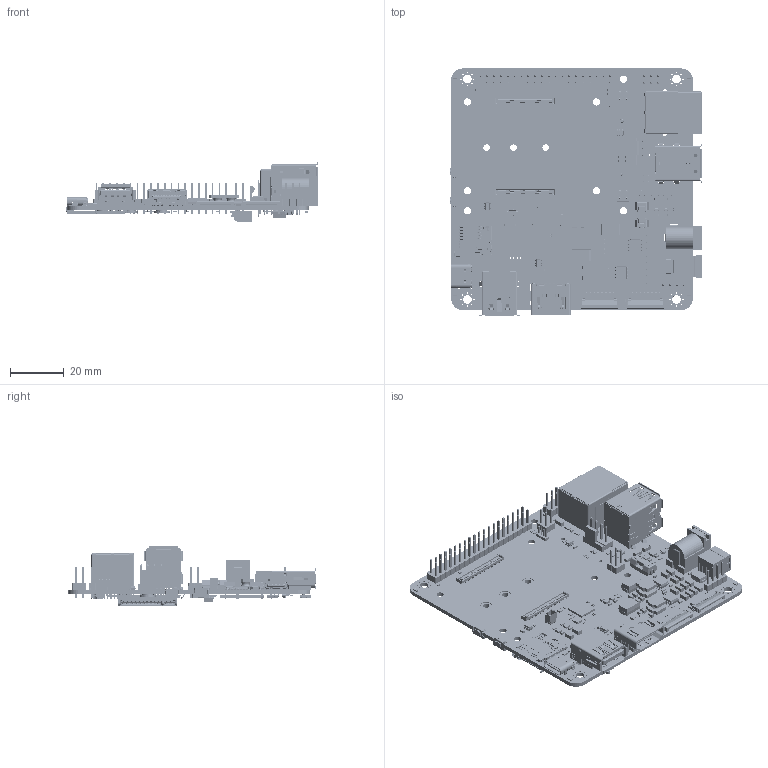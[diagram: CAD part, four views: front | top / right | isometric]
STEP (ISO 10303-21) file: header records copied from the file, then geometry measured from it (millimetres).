
FILE_DESCRIPTION(('KiCad electronic assembly'),'2;1');
FILE_NAME('TOFU5lite_V1.2.step','2025-12-12T10:07:45',('Pcbnew'),( 'Kicad'),'Open CASCADE STEP processor 7.9','KiCad to STEP converter' ,'Unknown');
FILE_SCHEMA(('AUTOMOTIVE_DESIGN { 1 0 10303 214 1 1 1 1 }'));
Length unit declared in the file: millimetre
Products named in the file (106): TOFU5lite_V1.2 1; C_0603_1608Metric; FH12-22S-0.5SHa; PinHeader_2x03_P2.54mm_Vertical; R_0603_1608Metric; FSUSB42UMX; Body; PinsArrayLR; PinsArrayTB; 47151-1051; SOLID; COMPOUND; C_1206_3216Metric; PinHeader_2x02_P2.54mm_Vertical; D_SOD-523; SOT-23-6; PinHeader_1x04_P2.54mm_Vertical; USON-10_2.5x1.0mm_P0.5mm; SOT-353_SC-70-5; A70-112-331N126--3DModel-STEP-56544; QFN-56-1EP_7x7mm_P0.4mm_EP4x4mm; TOFU5lite_V1.2 1.27.1; WSON-6-1EP_2x2mm_P0.65mm_EP1x1.6mm; SOT-563; C_0402_1005Metric; 48406-0001; L_Bourns_SRN6045TA; C_0805_2012Metric; CUI_DEVICES_PJ-102AH; R_0805_2012Metric; STP_629722000214 (rev1); 629722000214_Housing; 629722000214_Pin1_Top; 629722000214_Pin4_Bottom; 629722000214_Pin4_Top; 629722000214_Pin1_Bottom; 629722000214_Pin3_Bottom; 629722000214_Pin3_Top; 629722000214_Pin2_Top; 629722000214_Pin2_Bottom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
Assembly tree (256 placements, depth 3):
  TOFU5lite_V1.2 1
    C_0603_1608Metric  x25
    FH12-22S-0.5SHa  x2
    PinHeader_2x03_P2.54mm_Vertical
    R_0603_1608Metric  x34
    FSUSB42UMX
      Body
      PinsArrayLR
      PinsArrayTB
    47151-1051
      SOLID
      COMPOUND
    C_1206_3216Metric  x17
    PinHeader_2x02_P2.54mm_Vertical  x2
    D_SOD-523  x5
    SOT-23-6  x2
    PinHeader_1x04_P2.54mm_Vertical
    USON-10_2.5x1.0mm_P0.5mm  x4
    SOT-353_SC-70-5
    A70-112-331N126--3DModel-STEP-56544
    QFN-56-1EP_7x7mm_P0.4mm_EP4x4mm
      TOFU5lite_V1.2 1.27.1
    WSON-6-1EP_2x2mm_P0.65mm_EP1x1.6mm  x4
    SOT-563  x2
    C_0402_1005Metric  x23
    48406-0001
      SOLID
      COMPOUND
    L_Bourns_SRN6045TA  x2
    C_0805_2012Metric  x8
    CUI_DEVICES_PJ-102AH
    R_0805_2012Metric  x4
    STP_629722000214 (rev1)
      629722000214_Housing
      629722000214_Pin1_Top
      629722000214_Pin4_Bottom
      629722000214_Pin4_Top  x2
      629722000214_Pin1_Bottom
      629722000214_Pin3_Bottom
      629722000214_Pin3_Top
      629722000214_Pin2_Top
      629722000214_Pin2_Bottom
      629722000214_Pin1_Top_mir
      629722000214_Pin1_Bottom_mir
      629722000214_Pin2_Top_mir
      629722000214_Pin2_Bottom_mir
      629722000214_Pin3_Top_mir
      629722000214_Pin3_Bottom_mir
      629722000214_Pin4_Bottom_mir
      629722000214_Shielding2
      629722000214_Shielding
    691322110002
      691322110002
      6913221100xx_PIN  x2
    ECMF04-4HSWM10  x7
    Crystal_SMD_3225-4Pin_3.2x2.5mm
    R_0402_1005Metric  x5
    D_SMB
    BM02B-SRSS-TB_LF__SN_
    CP_EIA-7343-31_Kemet-D  x2
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Bounding box: 94 x 92 x 21.98 mm (x, y, z)
Volume: 24024.4 mm3; surface area: 44039.1 mm2
Topology: 392 solids, 476 shells, 25555 faces, 69523 edges, 45889 vertices
Faces by surface type: plane 19936, cylinder 5142, bspline 340, cone 89, sphere 28, torus 12, revolution 8
Full cylindrical faces by diameter (mm): 0.1 x8, 0.175 x1, 0.2 x20, 0.25 x6, 0.5 x39, 0.65 x6, 0.7 x27, 0.9 x16, 1 x58, 1.02 x4, 1.07 x4, 1.1 x2, 1.15 x1, 1.3 x1, 1.65 x1, 1.7 x2, 1.8 x2, 2.3 x6, 2.459 x3, 2.7 x7, 3.2 x6, 4.2 x3, 4.3 x3, 6 x3
Entity records: 571206 total; most frequent: CARTESIAN_POINT 99315, ORIENTED_EDGE 89414, DIRECTION 83507, EDGE_CURVE 44709, LINE 37655, VECTOR 37655, VERTEX_POINT 29141, AXIS2_PLACEMENT_3D 22922
